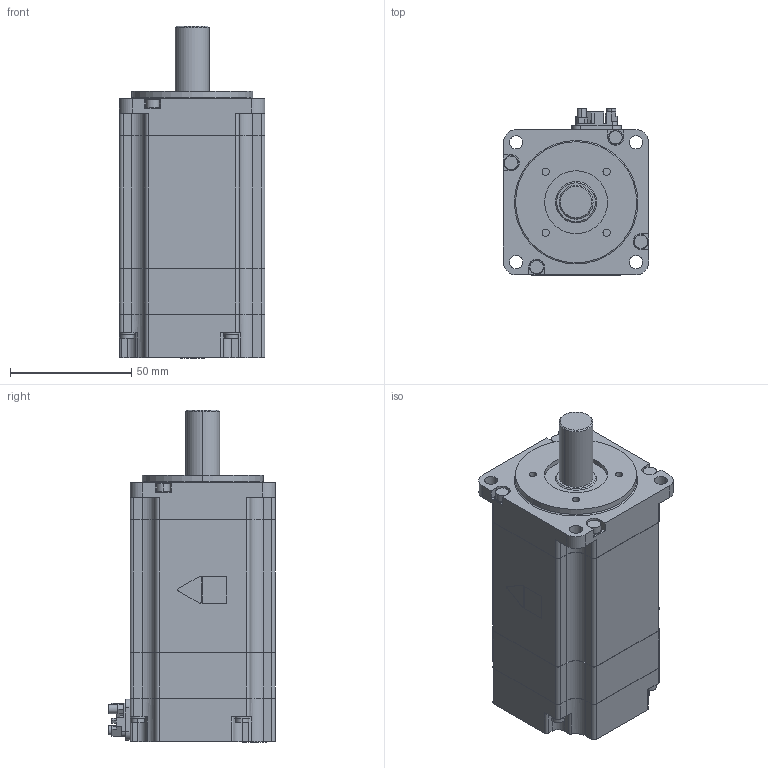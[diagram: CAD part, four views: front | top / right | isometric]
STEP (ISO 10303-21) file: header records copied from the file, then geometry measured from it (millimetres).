
FILE_DESCRIPTION (( 'STEP AP214' ), '1' );
FILE_NAME ('sgmxj_06aua21a1.STEP', '2021-01-26T00:57:13', ( 'EN00457-1' ), ( 'Hewlett-Packard Company' ), 'SwSTEP 2.0', 'SolidWorks 2016', '' );
FILE_SCHEMA (( 'AUTOMOTIVE_DESIGN' ));
Length unit declared in the file: millimetre
Products named in the file (1): sgmxj_06aua21a1
Bounding box: 60.1 x 68.8 x 137.1 mm (x, y, z)
Volume: 350160.4 mm3; surface area: 36480.4 mm2
Topology: 1 solids, 1 shells, 432 faces, 1145 edges, 762 vertices
Faces by surface type: plane 247, cylinder 179, cone 4, torus 2
Entity records: 18260 total; most frequent: DIRECTION 2383, CARTESIAN_POINT 2340, ORIENTED_EDGE 2290, EDGE_CURVE 1145, AXIS2_PLACEMENT_3D 805, LINE 773, VECTOR 773, VERTEX_POINT 762
